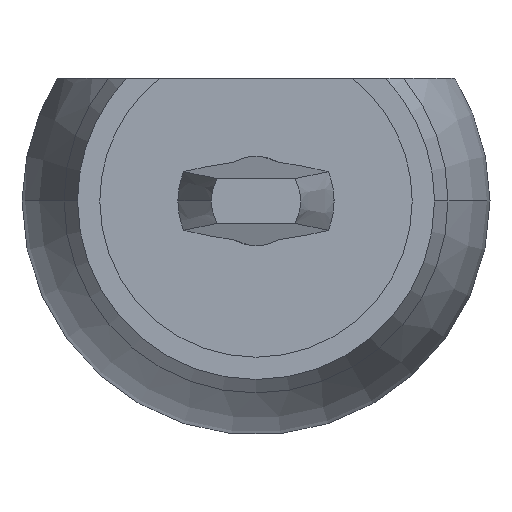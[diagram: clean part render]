
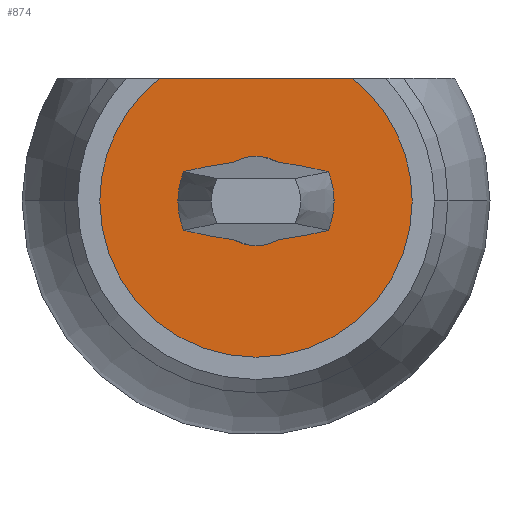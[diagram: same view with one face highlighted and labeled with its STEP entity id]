
A CAD part, left-side view. The second image highlights one B-rep face of the part: STEP entity #874.
In plain terms, the highlighted planar face has unit normal (-1, 0, 0).
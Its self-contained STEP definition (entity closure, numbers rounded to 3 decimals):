
#13 = FACE_OUTER_BOUND ( 'NONE', #586, .T. ) ;
#28 = DIRECTION ( 'NONE',  ( -1., 0., 0. ) ) ;
#33 = VERTEX_POINT ( 'NONE', #501 ) ;
#39 = DIRECTION ( 'NONE',  ( 1., 0., 0. ) ) ;
#42 = ORIENTED_EDGE ( 'NONE', *, *, #1236, .T. ) ;
#62 = CIRCLE ( 'NONE', #632, 7. ) ;
#111 = VERTEX_POINT ( 'NONE', #1276 ) ;
#124 = CIRCLE ( 'NONE', #1127, 7. ) ;
#148 = CARTESIAN_POINT ( 'NONE',  ( -50., 0., 0. ) ) ;
#204 = EDGE_CURVE ( 'NONE', #1366, #330, #754, .T. ) ;
#215 = AXIS2_PLACEMENT_3D ( 'NONE', #419, #1374, #401 ) ;
#230 = PLANE ( 'NONE',  #341 ) ;
#324 = CIRCLE ( 'NONE', #215, 7. ) ;
#327 = FACE_BOUND ( 'NONE', #1331, .T. ) ;
#330 = VERTEX_POINT ( 'NONE', #602 ) ;
#341 = AXIS2_PLACEMENT_3D ( 'NONE', #1182, #28, #358 ) ;
#358 = DIRECTION ( 'NONE',  ( 0., -1., 0. ) ) ;
#362 = CARTESIAN_POINT ( 'NONE',  ( -50., 0., 0. ) ) ;
#384 = CARTESIAN_POINT ( 'NONE',  ( -50., 0., 0. ) ) ;
#401 = DIRECTION ( 'NONE',  ( 0., 1., 0. ) ) ;
#408 = EDGE_CURVE ( 'NONE', #330, #925, #324, .T. ) ;
#410 = AXIS2_PLACEMENT_3D ( 'NONE', #1108, #575, #684 ) ;
#419 = CARTESIAN_POINT ( 'NONE',  ( -50., 0., 0. ) ) ;
#444 = DIRECTION ( 'NONE',  ( 0., 1., 0. ) ) ;
#453 = EDGE_CURVE ( 'NONE', #925, #33, #124, .T. ) ;
#501 = CARTESIAN_POINT ( 'NONE',  ( -50., 7., 0. ) ) ;
#529 = CARTESIAN_POINT ( 'NONE',  ( -50., -7., 0. ) ) ;
#537 = ORIENTED_EDGE ( 'NONE', *, *, #688, .F. ) ;
#575 = DIRECTION ( 'NONE',  ( 1., 0., 0. ) ) ;
#586 = EDGE_LOOP ( 'NONE', ( #792, #537, #654, #854 ) ) ;
#602 = CARTESIAN_POINT ( 'NONE',  ( -50., -4.33, 5.5 ) ) ;
#632 = AXIS2_PLACEMENT_3D ( 'NONE', #384, #1325, #886 ) ;
#648 = DIRECTION ( 'NONE',  ( 1., 0., 0. ) ) ;
#654 = ORIENTED_EDGE ( 'NONE', *, *, #453, .F. ) ;
#663 = DIRECTION ( 'NONE',  ( 0., 1., 0. ) ) ;
#684 = DIRECTION ( 'NONE',  ( 0., 1., 0. ) ) ;
#686 = EDGE_CURVE ( 'NONE', #111, #706, #1056, .T. ) ;
#688 = EDGE_CURVE ( 'NONE', #33, #1366, #62, .T. ) ;
#706 = VERTEX_POINT ( 'NONE', #1233 ) ;
#737 = VECTOR ( 'NONE', #1080, 1000. ) ;
#754 = LINE ( 'NONE', #1309, #737 ) ;
#792 = ORIENTED_EDGE ( 'NONE', *, *, #204, .F. ) ;
#854 = ORIENTED_EDGE ( 'NONE', *, *, #408, .F. ) ;
#874 = ADVANCED_FACE ( 'NONE', ( #13, #327 ), #230, .T. ) ;
#886 = DIRECTION ( 'NONE',  ( 0., 1., 0. ) ) ;
#925 = VERTEX_POINT ( 'NONE', #529 ) ;
#1042 = AXIS2_PLACEMENT_3D ( 'NONE', #362, #39, #444 ) ;
#1056 = CIRCLE ( 'NONE', #410, 2. ) ;
#1069 = CIRCLE ( 'NONE', #1042, 2. ) ;
#1080 = DIRECTION ( 'NONE',  ( 0., -1., 0. ) ) ;
#1108 = CARTESIAN_POINT ( 'NONE',  ( -50., 0., 0. ) ) ;
#1127 = AXIS2_PLACEMENT_3D ( 'NONE', #148, #648, #663 ) ;
#1182 = CARTESIAN_POINT ( 'NONE',  ( -50., 7., 0. ) ) ;
#1233 = CARTESIAN_POINT ( 'NONE',  ( -50., 2., 0. ) ) ;
#1235 = CARTESIAN_POINT ( 'NONE',  ( -50., 4.33, 5.5 ) ) ;
#1236 = EDGE_CURVE ( 'NONE', #706, #111, #1069, .T. ) ;
#1273 = ORIENTED_EDGE ( 'NONE', *, *, #686, .T. ) ;
#1276 = CARTESIAN_POINT ( 'NONE',  ( -50., -2., 0. ) ) ;
#1309 = CARTESIAN_POINT ( 'NONE',  ( -50., 7., 5.5 ) ) ;
#1325 = DIRECTION ( 'NONE',  ( 1., 0., 0. ) ) ;
#1331 = EDGE_LOOP ( 'NONE', ( #42, #1273 ) ) ;
#1366 = VERTEX_POINT ( 'NONE', #1235 ) ;
#1374 = DIRECTION ( 'NONE',  ( 1., 0., 0. ) ) ;
